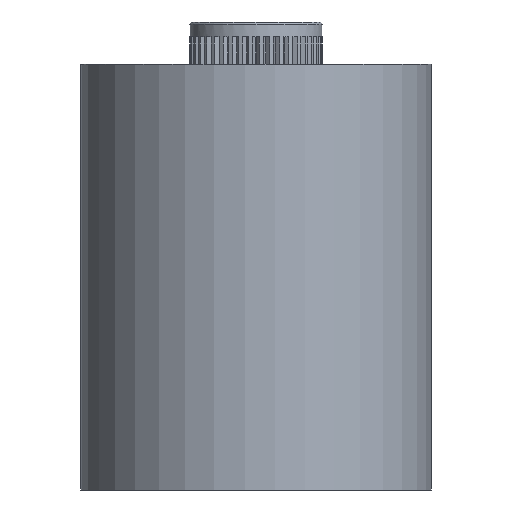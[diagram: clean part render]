
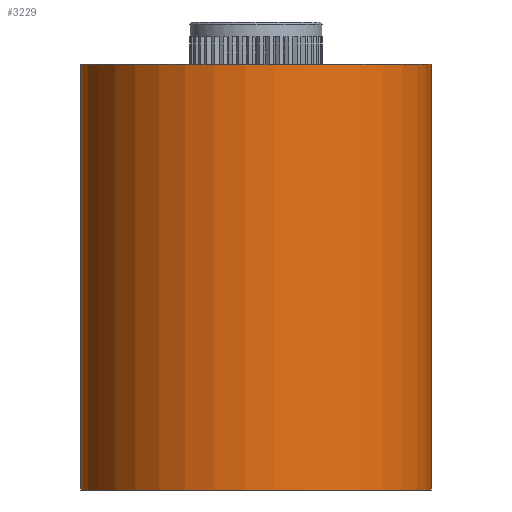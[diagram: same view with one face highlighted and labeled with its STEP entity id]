
A CAD part, front view. The second image highlights one B-rep face of the part: STEP entity #3229.
In plain terms, the highlighted cylindrical face has radius 10.5 mm (diameter 21 mm), a full revolution.
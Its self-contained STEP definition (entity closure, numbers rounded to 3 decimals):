
#2368=CARTESIAN_POINT('',(5.83,8.733,18.856));
#2369=VERTEX_POINT('',#2368);
#2370=CARTESIAN_POINT('',(0.,0.,18.856));
#2371=DIRECTION('',(0.,0.,1.0));
#2372=DIRECTION('',(-0.555,-0.832,0.));
#2373=AXIS2_PLACEMENT_3D('',#2370,#2371,#2372);
#2374=CIRCLE('',#2373,10.5);
#2375=EDGE_CURVE('',#2369,#2369,#2374,.T.);
#3210=CARTESIAN_POINT('',(0.,0.,-6.604));
#3211=DIRECTION('',(0.,0.,1.0));
#3212=DIRECTION('',(-0.555,-0.832,0.));
#3213=AXIS2_PLACEMENT_3D('',#3210,#3211,#3212);
#3214=CYLINDRICAL_SURFACE('',#3213,10.5);
#3215=ORIENTED_EDGE('',*,*,#2375,.F.);
#3216=EDGE_LOOP('',(#3215));
#3217=FACE_OUTER_BOUND('',#3216,.T.);
#3218=CARTESIAN_POINT('',(5.83,8.733,-6.604));
#3219=VERTEX_POINT('',#3218);
#3220=CARTESIAN_POINT('',(0.,0.,-6.604));
#3221=DIRECTION('',(0.,0.,-1.0));
#3222=DIRECTION('',(-0.555,-0.832,0.));
#3223=AXIS2_PLACEMENT_3D('',#3220,#3221,#3222);
#3224=CIRCLE('',#3223,10.5);
#3225=EDGE_CURVE('',#3219,#3219,#3224,.T.);
#3226=ORIENTED_EDGE('',*,*,#3225,.F.);
#3227=EDGE_LOOP('',(#3226));
#3228=FACE_BOUND('',#3227,.T.);
#3229=ADVANCED_FACE('',(#3217,#3228),#3214,.T.);
